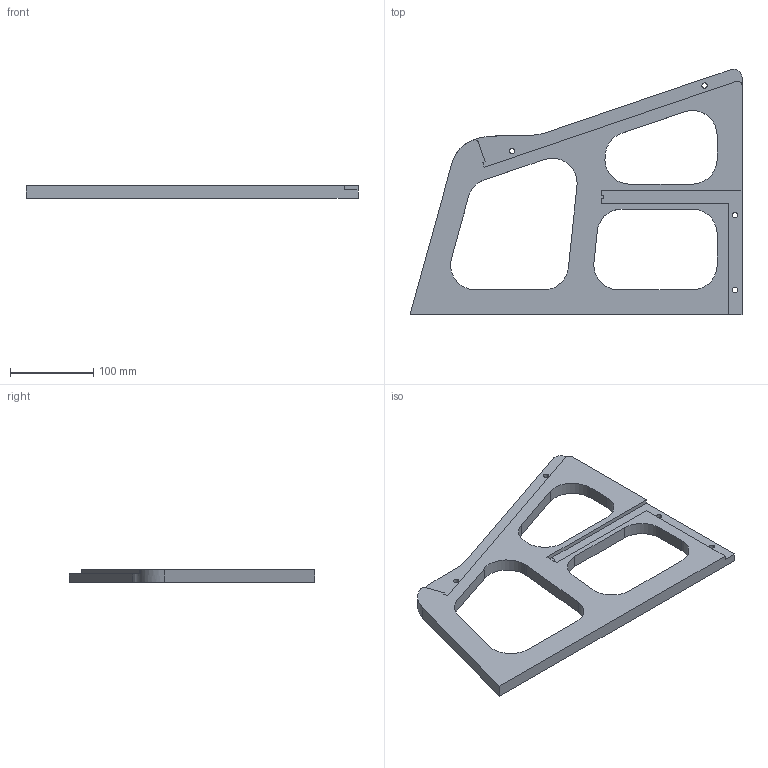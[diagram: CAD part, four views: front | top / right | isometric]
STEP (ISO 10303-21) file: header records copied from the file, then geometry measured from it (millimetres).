
FILE_DESCRIPTION (( 'STEP AP214' ), '1' );
FILE_NAME ('side_left.STEP', '2018-06-04T17:54:21', ( '' ), ( '' ), 'SwSTEP 2.0', 'SolidWorks 2017', '' );
FILE_SCHEMA (( 'AUTOMOTIVE_DESIGN' ));
Length unit declared in the file: millimetre
Products named in the file (1): side_left
Bounding box: 400 x 296.03 x 15 mm (x, y, z)
Volume: 658002.7 mm3; surface area: 136148.9 mm2
Topology: 1 solids, 1 shells, 57 faces, 165 edges, 110 vertices
Faces by surface type: plane 32, cylinder 24, bspline 1
Entity records: 1956 total; most frequent: CARTESIAN_POINT 349, ORIENTED_EDGE 330, DIRECTION 324, EDGE_CURVE 165, VECTOR 114, LINE 114, VERTEX_POINT 110, AXIS2_PLACEMENT_3D 105
